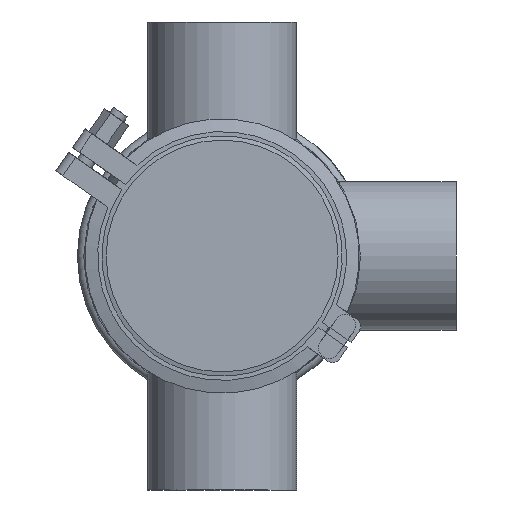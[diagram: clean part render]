
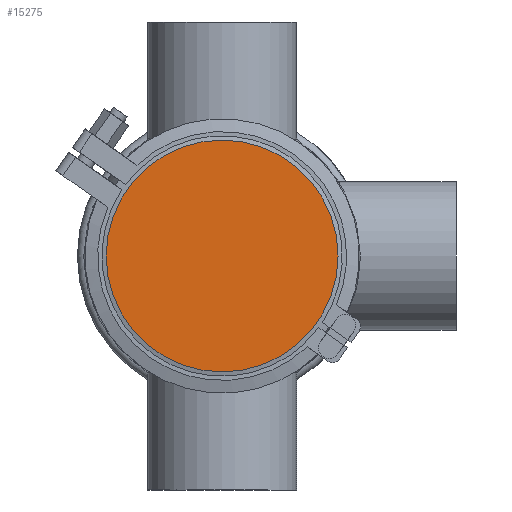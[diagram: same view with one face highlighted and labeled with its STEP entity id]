
A CAD part, front view. The second image highlights one B-rep face of the part: STEP entity #15275.
In plain terms, the highlighted planar face has unit normal (0, -1, 0).
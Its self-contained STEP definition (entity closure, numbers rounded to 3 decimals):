
#1900 = DIRECTION ( 'NONE',  ( 0., 0., 1. ) ) ;
#2497 = FACE_OUTER_BOUND ( 'NONE', #20339, .T. ) ;
#2724 = DIRECTION ( 'NONE',  ( 0., -1., 0. ) ) ;
#7391 = PLANE ( 'NONE',  #16730 ) ;
#8419 = VERTEX_POINT ( 'NONE', #15008 ) ;
#9156 = DIRECTION ( 'NONE',  ( 0., 0., -1. ) ) ;
#10222 = CIRCLE ( 'NONE', #14008, 54.5 ) ;
#12427 = ORIENTED_EDGE ( 'NONE', *, *, #16486, .F. ) ;
#13293 = CARTESIAN_POINT ( 'NONE',  ( 0., 0., 0. ) ) ;
#14008 = AXIS2_PLACEMENT_3D ( 'NONE', #13293, #19924, #1900 ) ;
#15008 = CARTESIAN_POINT ( 'NONE',  ( 0., 0., 54.5 ) ) ;
#15275 = ADVANCED_FACE ( 'NONE', ( #2497 ), #7391, .T. ) ;
#16486 = EDGE_CURVE ( 'NONE', #8419, #8419, #10222, .T. ) ;
#16730 = AXIS2_PLACEMENT_3D ( 'NONE', #17591, #2724, #9156 ) ;
#17591 = CARTESIAN_POINT ( 'NONE',  ( -54.5, 0., 0. ) ) ;
#19924 = DIRECTION ( 'NONE',  ( 0., 1., 0. ) ) ;
#20339 = EDGE_LOOP ( 'NONE', ( #12427 ) ) ;
